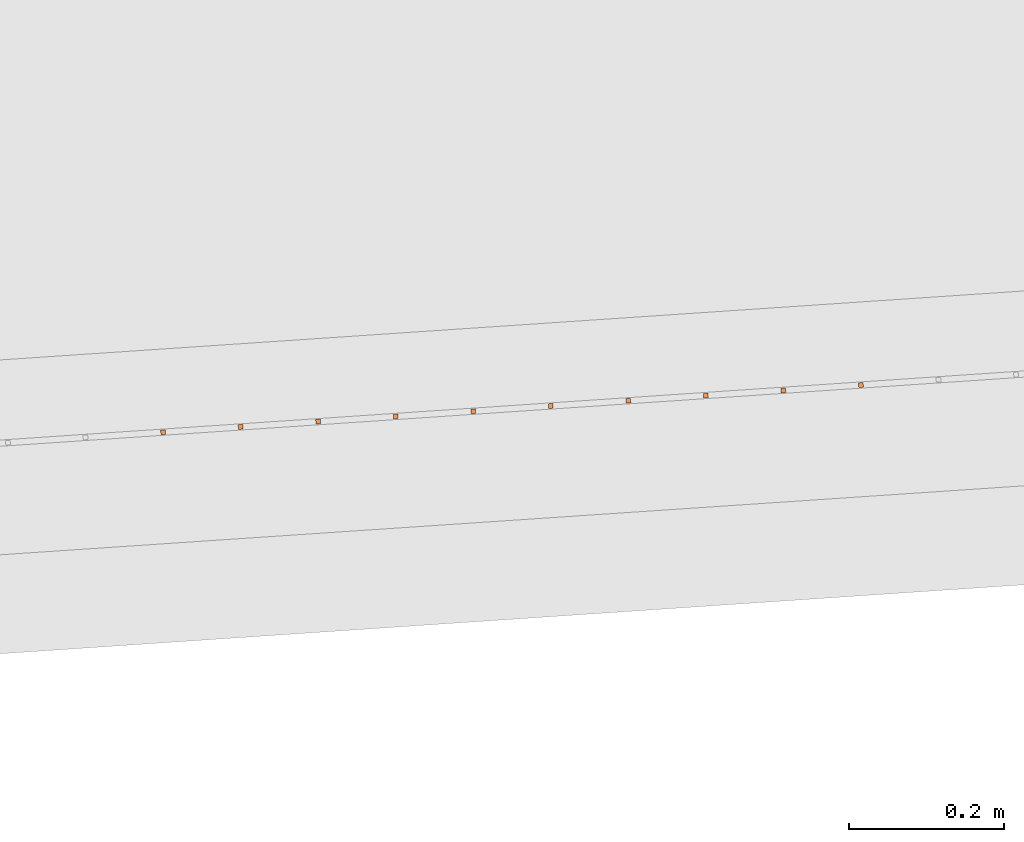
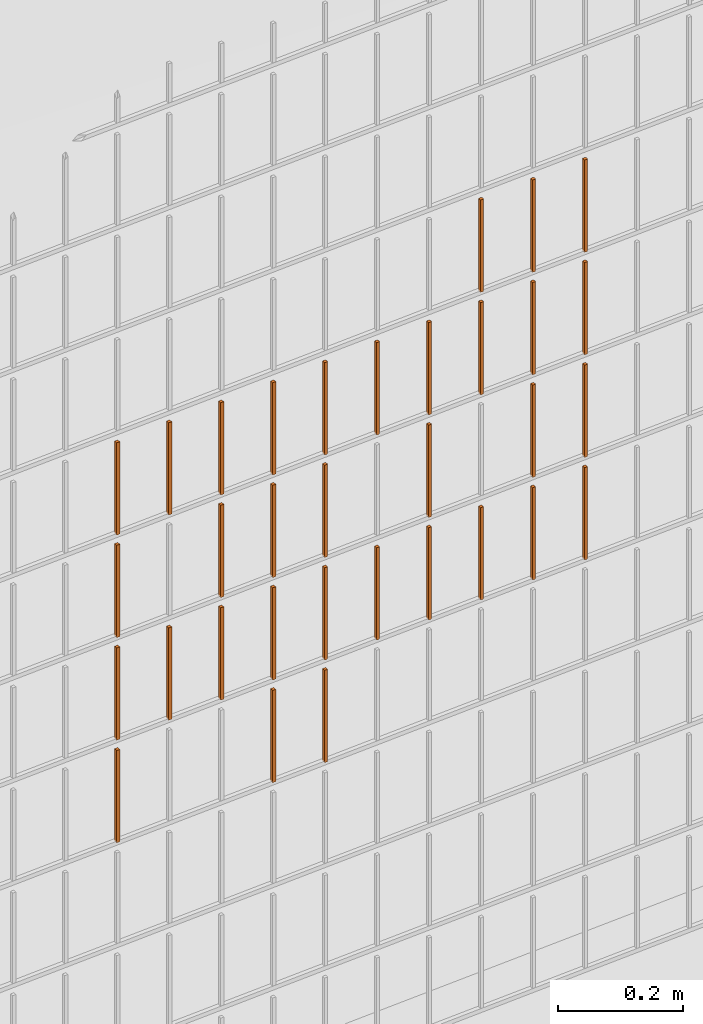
# One storey, part 311 of 1809: 33 proxies, 1 element without a shape of its own.
"""IFC2X3 building model written with IfcOpenShell, lengths in millimetres."""

from ifc_helpers import new_model, entity, si_unit, converted_unit, derived_unit, money_unit, direction, frame, origin_with_axes, place, context, subcontext, project, spatial, faceted_brep, source, transform, mapped, material, type_object, element, aggregate, save


model = new_model("IFC2X3")

# Units and contexts
model_context = context("Model", 3, precision=0.01, world=origin_with_axes(), true_north=direction((0.0, 1.0)))
body_context = subcontext(model_context, "Body", "Model", "MODEL_VIEW")
ifc_project = project(units=[si_unit("LENGTHUNIT", "METRE", prefix="MILLI"), si_unit("AREAUNIT", "SQUARE_METRE"), si_unit("VOLUMEUNIT", "CUBIC_METRE"), converted_unit("PLANEANGLEUNIT", "DEGREE", entity("IfcPlaneAngleMeasure", 0.0174532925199), si_unit("PLANEANGLEUNIT", "RADIAN"), dimensions=[0, 0, 0, 0, 0, 0, 0]), si_unit("SOLIDANGLEUNIT", "STERADIAN"), money_unit("EUR"), converted_unit("TIMEUNIT", "Year", entity("IfcTimeMeasure", 31556926.0), si_unit("TIMEUNIT", "SECOND"), dimensions=[0, 0, 1, 0, 0, 0, 0]), si_unit("MASSUNIT", "GRAM", prefix="KILO"), si_unit("THERMODYNAMICTEMPERATUREUNIT", "DEGREE_CELSIUS"), si_unit("LUMINOUSINTENSITYUNIT", "LUMEN"), si_unit("ENERGYUNIT", "JOULE", prefix="MEGA"), derived_unit("THERMALCONDUCTANCEUNIT", [(si_unit("POWERUNIT", "WATT"), 1), (si_unit("LENGTHUNIT", "METRE"), -1), (si_unit("THERMODYNAMICTEMPERATUREUNIT", "KELVIN"), -1)]), derived_unit("SPECIFICHEATCAPACITYUNIT", [(si_unit("ENERGYUNIT", "JOULE"), 1), (si_unit("MASSUNIT", "GRAM", prefix="KILO"), -1), (si_unit("THERMODYNAMICTEMPERATUREUNIT", "KELVIN"), -1)]), derived_unit("MASSDENSITYUNIT", [(si_unit("MASSUNIT", "GRAM", prefix="KILO"), 1), (si_unit("VOLUMEUNIT", "CUBIC_METRE"), -1)])], contexts=[model_context])

# Site, building, storey
site_placement = place(None, origin_with_axes())
site = spatial("IfcSite", under=ifc_project, at=site_placement, Name="Politse- ja Piirivalveameti ning Päästeameti ühishoone", CompositionType="ELEMENT")
building_placement = place(site_placement, origin_with_axes())
building = spatial("IfcBuilding", under=site, at=building_placement, Name="Politse- ja Piirivalveameti ning Päästeameti ühishoone", CompositionType="ELEMENT")
storey_placement = place(building_placement, origin_with_axes())
storey = spatial("IfcBuildingStorey", under=building, at=storey_placement, Name="Esimene korrus", CompositionType="ELEMENT", Elevation=0.0)

# Proxies
building_element_proxy_type_1 = type_object("IfcBuildingElementProxyType", Name="Railing Type", PredefinedType="NOTDEFINED")
proxy_1_placement = place(storey_placement, frame((89252.001212, -29183.4766571, 203.661247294), z_axis=(0.0, 0.0, 1.0), x_axis=(1.0, 0.0, 0.0)))
proxy_1 = element("IfcBuildingElementProxy", 1, at=proxy_1_placement, inside=storey, type_object=building_element_proxy_type_1, Name="PIIRDEAED")
ifc_material = material(Name="ET-03_Raud")
building_element_proxy_type_2 = type_object("IfcBuildingElementProxyType", Name="IfcBuildingElementProxy", PredefinedType="NOTDEFINED")
shared_shape_1 = source(origin_with_axes(), body_context, "Body", "Brep", [
    faceted_brep([(3.0, 3.0, -0.000752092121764), (-3.0, 3.0, -0.000752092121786), (-3.0, 3.0, 179.99926046), (3.0, 3.0, 179.99926046), (3.0, -3.0, 0.000752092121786), (-3.0, -3.0, 0.000752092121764), (-3.0, -3.0, 180.000764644), (3.0, -3.0, 180.000764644)], [[[0, 1, 2, 3]], [[0, 4, 5, 1]], [[1, 5, 6, 2]], [[3, 2, 6, 7]], [[4, 0, 3, 7]], [[5, 4, 7, 6]]]),
])
proxy_2_placement = place(proxy_1_placement, frame((-40534.3244226, -20035.7154053, 817.049381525), z_axis=(0.0, 0.0, 1.0), x_axis=(1.0, 0.0, 0.0)))
proxy_2 = element("IfcBuildingElementProxy", 2, at=proxy_2_placement, type_object=building_element_proxy_type_2, material=ifc_material, Name="BALUSTER - 001", context=body_context, shape_type="MappedRepresentation", body=[
    mapped(shared_shape_1, transform((0.0, 0.0, 0.0), x_axis=(-0.0673926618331, 0.997726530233, 0.0), y_axis=(-0.997726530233, -0.0673926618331, 0.0), z_axis=(0.0, 0.0, 1.0))),
])
shared_shape_2 = source(origin_with_axes(), body_context, "Body", "Brep", [
    faceted_brep([(3.0, 3.0, -0.000752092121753), (-3.0, 3.0, -0.000752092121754), (-3.0, 3.0, 179.99926046), (3.0, 3.0, 179.99926046), (3.0, -3.0, 0.000752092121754), (-3.0, -3.0, 0.000752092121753), (-3.0, -3.0, 180.000764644), (3.0, -3.0, 180.000764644)], [[[0, 1, 2, 3]], [[0, 4, 5, 1]], [[1, 5, 6, 2]], [[3, 2, 6, 7]], [[4, 0, 3, 7]], [[5, 4, 7, 6]]]),
])
proxy_3_placement = place(proxy_1_placement, frame((-41033.1876878, -20069.4117363, 816.924032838), z_axis=(0.0, 0.0, 1.0), x_axis=(1.0, 0.0, 0.0)))
proxy_3 = element("IfcBuildingElementProxy", 3, at=proxy_3_placement, type_object=building_element_proxy_type_2, material=ifc_material, Name="BALUSTER - 001", context=body_context, shape_type="MappedRepresentation", body=[
    mapped(shared_shape_2, transform((0.0, 0.0, 0.0), x_axis=(-0.0673926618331, 0.997726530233, 0.0), y_axis=(-0.997726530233, -0.0673926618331, 0.0), z_axis=(0.0, 0.0, 1.0))),
])
proxy_4_placement = place(proxy_1_placement, frame((-41033.1876878, -20069.4117363, 1216.92403284), z_axis=(0.0, 0.0, 1.0), x_axis=(1.0, 0.0, 0.0)))
proxy_4 = element("IfcBuildingElementProxy", 4, at=proxy_4_placement, type_object=building_element_proxy_type_2, material=ifc_material, Name="BALUSTER - 001", context=body_context, shape_type="MappedRepresentation", body=[
    mapped(shared_shape_2, transform((0.0, 0.0, 0.0), x_axis=(-0.0673926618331, 0.997726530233, 0.0), y_axis=(-0.997726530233, -0.0673926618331, 0.0), z_axis=(0.0, 0.0, 1.0))),
])
shared_shape_3 = source(origin_with_axes(), body_context, "Body", "Brep", [
    faceted_brep([(3.0, 3.0, -0.000752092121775), (-3.0, 3.0, -0.000752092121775), (-3.0, 3.0, 179.99926046), (3.0, 3.0, 179.99926046), (3.0, -3.0, 0.000752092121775), (-3.0, -3.0, 0.000752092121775), (-3.0, -3.0, 180.000764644), (3.0, -3.0, 180.000764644)], [[[0, 1, 2, 3]], [[0, 4, 5, 1]], [[1, 5, 6, 2]], [[3, 2, 6, 7]], [[4, 0, 3, 7]], [[5, 4, 7, 6]]]),
])
proxy_5_placement = place(proxy_1_placement, frame((-40434.5517696, -20028.9761392, 817.074451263), z_axis=(0.0, 0.0, 1.0), x_axis=(1.0, 0.0, 0.0)))
proxy_5 = element("IfcBuildingElementProxy", 5, at=proxy_5_placement, type_object=building_element_proxy_type_2, material=ifc_material, Name="BALUSTER - 001", context=body_context, shape_type="MappedRepresentation", body=[
    mapped(shared_shape_3, transform((0.0, 0.0, 0.0), x_axis=(-0.0673926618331, 0.997726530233, 0.0), y_axis=(-0.997726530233, -0.0673926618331, 0.0), z_axis=(0.0, 0.0, 1.0))),
])
shared_shape_4 = source(origin_with_axes(), body_context, "Body", "Brep", [
    faceted_brep([(3.0, 3.0, -0.000752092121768), (-3.0, 3.0, -0.000752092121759), (-3.00000000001, 2.99999999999, 179.99926046), (2.99999999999, 2.99999999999, 179.99926046), (3.0, -3.0, 0.000752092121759), (-3.0, -3.0, 0.000752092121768), (-3.00000000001, -3.00000000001, 180.000764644), (2.99999999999, -3.00000000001, 180.000764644)], [[[0, 1, 2, 3]], [[0, 4, 5, 1]], [[1, 5, 6, 2]], [[3, 2, 6, 7]], [[4, 0, 3, 7]], [[5, 4, 7, 6]]]),
])
proxy_6_placement = place(proxy_1_placement, frame((-40235.0064636, -20015.4976068, 1017.12459074), z_axis=(0.0, 0.0, 1.0), x_axis=(1.0, 0.0, 0.0)))
proxy_6 = element("IfcBuildingElementProxy", 6, at=proxy_6_placement, type_object=building_element_proxy_type_2, material=ifc_material, Name="BALUSTER - 001", context=body_context, shape_type="MappedRepresentation", body=[
    mapped(shared_shape_4, transform((0.0, 0.0, 0.0), x_axis=(-0.0673926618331, 0.997726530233, 0.0), y_axis=(-0.997726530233, -0.0673926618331, 0.0), z_axis=(0.0, 0.0, 1.0))),
])
shared_shape_5 = source(origin_with_axes(), body_context, "Body", "Brep", [
    faceted_brep([(3.0, 3.0, -0.000752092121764), (-3.0, 3.0, -0.000752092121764), (-3.0, 3.0, 179.99926046), (3.0, 3.0, 179.99926046), (3.0, -3.0, 0.000752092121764), (-3.0, -3.0, 0.000752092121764), (-3.0, -3.0, 180.000764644), (3.0, -3.0, 180.000764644)], [[[0, 1, 2, 3]], [[0, 4, 5, 1]], [[1, 5, 6, 2]], [[3, 2, 6, 7]], [[4, 0, 3, 7]], [[5, 4, 7, 6]]]),
])
proxy_7_placement = place(proxy_1_placement, frame((-40634.0970757, -20042.4546715, 817.024311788), z_axis=(0.0, 0.0, 1.0), x_axis=(1.0, 0.0, 0.0)))
proxy_7 = element("IfcBuildingElementProxy", 7, at=proxy_7_placement, type_object=building_element_proxy_type_2, material=ifc_material, Name="BALUSTER - 001", context=body_context, shape_type="MappedRepresentation", body=[
    mapped(shared_shape_5, transform((0.0, 0.0, 0.0), x_axis=(-0.0673926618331, 0.997726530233, 0.0), y_axis=(-0.997726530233, -0.0673926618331, 0.0), z_axis=(0.0, 0.0, 1.0))),
])
proxy_8_placement = place(proxy_1_placement, frame((-40534.3244226, -20035.7154053, 1217.04938153), z_axis=(0.0, 0.0, 1.0), x_axis=(1.0, 0.0, 0.0)))
proxy_8 = element("IfcBuildingElementProxy", 8, at=proxy_8_placement, type_object=building_element_proxy_type_2, material=ifc_material, Name="BALUSTER - 001", context=body_context, shape_type="MappedRepresentation", body=[
    mapped(shared_shape_5, transform((0.0, 0.0, 0.0), x_axis=(-0.0673926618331, 0.997726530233, 0.0), y_axis=(-0.997726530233, -0.0673926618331, 0.0), z_axis=(0.0, 0.0, 1.0))),
])
shared_shape_6 = source(origin_with_axes(), body_context, "Body", "Brep", [
    faceted_brep([(3.0, 3.0, -0.000752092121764), (-3.0, 3.0, -0.000752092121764), (-3.0, 3.0, 179.99926046), (3.0, 3.0, 179.99926046), (3.0, -3.0, 0.000752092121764), (-3.0, -3.0, 0.000752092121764), (-3.0, -3.0, 180.000764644), (3.0, -3.0, 180.000764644)], [[[0, 1, 2, 3]], [[0, 4, 5, 1]], [[1, 5, 6, 2]], [[3, 2, 6, 7]], [[4, 0, 3, 7]], [[5, 4, 7, 6]]]),
])
proxy_9_placement = place(proxy_1_placement, frame((-40833.6423817, -20055.9332039, 1216.97417231), z_axis=(0.0, 0.0, 1.0), x_axis=(1.0, 0.0, 0.0)))
proxy_9 = element("IfcBuildingElementProxy", 9, at=proxy_9_placement, type_object=building_element_proxy_type_2, material=ifc_material, Name="BALUSTER - 001", context=body_context, shape_type="MappedRepresentation", body=[
    mapped(shared_shape_6, transform((0.0, 0.0, 0.0), x_axis=(-0.0673926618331, 0.997726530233, 0.0), y_axis=(-0.997726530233, -0.0673926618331, 0.0), z_axis=(0.0, 0.0, 1.0))),
])
shared_shape_7 = source(origin_with_axes(), body_context, "Body", "Brep", [
    faceted_brep([(3.0, 3.0, -0.000752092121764), (-3.0, 3.0, -0.000752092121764), (-3.0, 3.0, 179.99926046), (3.0, 3.0, 179.99926046), (3.0, -3.0, 0.000752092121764), (-3.0, -3.0, 0.000752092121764), (-3.0, -3.0, 180.000764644), (3.0, -3.0, 180.000764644)], [[[0, 1, 2, 3]], [[0, 4, 5, 1]], [[1, 5, 6, 2]], [[3, 2, 6, 7]], [[4, 0, 3, 7]], [[5, 4, 7, 6]]]),
])
proxy_10_placement = place(proxy_1_placement, frame((-40235.0064636, -20015.4976068, 1417.12459074), z_axis=(0.0, 0.0, 1.0), x_axis=(1.0, 0.0, 0.0)))
proxy_10 = element("IfcBuildingElementProxy", 10, at=proxy_10_placement, type_object=building_element_proxy_type_2, material=ifc_material, Name="BALUSTER - 001", context=body_context, shape_type="MappedRepresentation", body=[
    mapped(shared_shape_7, transform((0.0, 0.0, 0.0), x_axis=(-0.0673926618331, 0.997726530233, 0.0), y_axis=(-0.997726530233, -0.0673926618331, 0.0), z_axis=(0.0, 0.0, 1.0))),
])
shared_shape_8 = source(origin_with_axes(), body_context, "Body", "Brep", [
    faceted_brep([(3.0, 3.0, -0.000752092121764), (-3.0, 3.0, -0.000752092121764), (-3.0, 3.0, 179.99926046), (3.0, 3.0, 179.99926046), (3.0, -3.0, 0.000752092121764), (-3.0, -3.0, 0.000752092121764), (-3.0, -3.0, 180.000764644), (3.0, -3.0, 180.000764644)], [[[0, 1, 2, 3]], [[0, 4, 5, 1]], [[1, 5, 6, 2]], [[3, 2, 6, 7]], [[4, 0, 3, 7]], [[5, 4, 7, 6]]]),
])
proxy_11_placement = place(proxy_1_placement, frame((-40235.0064636, -20015.4976068, 817.124590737), z_axis=(0.0, 0.0, 1.0), x_axis=(1.0, 0.0, 0.0)))
proxy_11 = element("IfcBuildingElementProxy", 11, at=proxy_11_placement, type_object=building_element_proxy_type_2, material=ifc_material, Name="BALUSTER - 001", context=body_context, shape_type="MappedRepresentation", body=[
    mapped(shared_shape_8, transform((0.0, 0.0, 0.0), x_axis=(-0.0673926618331, 0.997726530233, 0.0), y_axis=(-0.997726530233, -0.0673926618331, 0.0), z_axis=(0.0, 0.0, 1.0))),
])
shared_shape_9 = source(origin_with_axes(), body_context, "Body", "Brep", [
    faceted_brep([(3.0, 3.0, -0.000752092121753), (-3.0, 3.0, -0.000752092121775), (-3.0, 3.0, 179.99926046), (3.0, 3.0, 179.99926046), (3.0, -3.0, 0.000752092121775), (-3.0, -3.0, 0.000752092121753), (-3.0, -3.0, 180.000764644), (3.0, -3.0, 180.000764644)], [[[0, 1, 2, 3]], [[0, 4, 5, 1]], [[1, 5, 6, 2]], [[3, 2, 6, 7]], [[4, 0, 3, 7]], [[5, 4, 7, 6]]]),
])
proxy_12_placement = place(proxy_1_placement, frame((-41132.9603408, -20076.1510024, 816.898963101), z_axis=(0.0, 0.0, 1.0), x_axis=(1.0, 0.0, 0.0)))
proxy_12 = element("IfcBuildingElementProxy", 12, at=proxy_12_placement, type_object=building_element_proxy_type_2, material=ifc_material, Name="BALUSTER - 001", context=body_context, shape_type="MappedRepresentation", body=[
    mapped(shared_shape_9, transform((0.0, 0.0, 0.0), x_axis=(-0.0673926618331, 0.997726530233, 0.0), y_axis=(-0.997726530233, -0.0673926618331, 0.0), z_axis=(0.0, 0.0, 1.0))),
])
shared_shape_10 = source(origin_with_axes(), body_context, "Body", "Brep", [
    faceted_brep([(3.0, 3.0, -0.000752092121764), (-3.0, 3.0, -0.000752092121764), (-3.0, 3.0, 179.99926046), (3.0, 3.0, 179.99926046), (3.0, -3.0, 0.000752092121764), (-3.0, -3.0, 0.000752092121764), (-3.0, -3.0, 180.000764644), (3.0, -3.0, 180.000764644)], [[[0, 1, 2, 3]], [[0, 4, 5, 1]], [[1, 5, 6, 2]], [[3, 2, 6, 7]], [[4, 0, 3, 7]], [[5, 4, 7, 6]]]),
])
proxy_13_placement = place(proxy_1_placement, frame((-40235.0064636, -20015.4976068, 1217.12459074), z_axis=(0.0, 0.0, 1.0), x_axis=(1.0, 0.0, 0.0)))
proxy_13 = element("IfcBuildingElementProxy", 13, at=proxy_13_placement, type_object=building_element_proxy_type_2, material=ifc_material, Name="BALUSTER - 001", context=body_context, shape_type="MappedRepresentation", body=[
    mapped(shared_shape_10, transform((0.0, 0.0, 0.0), x_axis=(-0.0673926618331, 0.997726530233, 0.0), y_axis=(-0.997726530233, -0.0673926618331, 0.0), z_axis=(0.0, 0.0, 1.0))),
])
proxy_14_placement = place(proxy_1_placement, frame((-40933.4150347, -20062.6724701, 1216.94910258), z_axis=(0.0, 0.0, 1.0), x_axis=(1.0, 0.0, 0.0)))
proxy_14 = element("IfcBuildingElementProxy", 14, at=proxy_14_placement, type_object=building_element_proxy_type_2, material=ifc_material, Name="BALUSTER - 001", context=body_context, shape_type="MappedRepresentation", body=[
    mapped(shared_shape_10, transform((0.0, 0.0, 0.0), x_axis=(-0.0673926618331, 0.997726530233, 0.0), y_axis=(-0.997726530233, -0.0673926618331, 0.0), z_axis=(0.0, 0.0, 1.0))),
])
shared_shape_11 = source(origin_with_axes(), body_context, "Body", "Brep", [
    faceted_brep([(3.0, 3.0, -0.000752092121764), (-3.0, 3.0, -0.000752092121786), (-3.0, 3.0, 179.99926046), (3.0, 3.0, 179.99926046), (3.0, -3.0, 0.000752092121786), (-3.0, -3.0, 0.000752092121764), (-3.0, -3.0, 180.000764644), (3.0, -3.0, 180.000764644)], [[[0, 1, 2, 3]], [[0, 4, 5, 1]], [[1, 5, 6, 2]], [[3, 2, 6, 7]], [[4, 0, 3, 7]], [[5, 4, 7, 6]]]),
])
proxy_15_placement = place(proxy_1_placement, frame((-40434.5517696, -20028.9761392, 1217.07445126), z_axis=(0.0, 0.0, 1.0), x_axis=(1.0, 0.0, 0.0)))
proxy_15 = element("IfcBuildingElementProxy", 15, at=proxy_15_placement, type_object=building_element_proxy_type_2, material=ifc_material, Name="BALUSTER - 001", context=body_context, shape_type="MappedRepresentation", body=[
    mapped(shared_shape_11, transform((0.0, 0.0, 0.0), x_axis=(-0.0673926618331, 0.997726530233, 0.0), y_axis=(-0.997726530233, -0.0673926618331, 0.0), z_axis=(0.0, 0.0, 1.0))),
])
shared_shape_12 = source(origin_with_axes(), body_context, "Body", "Brep", [
    faceted_brep([(3.0, 3.0, -0.000752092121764), (-3.0, 3.0, -0.000752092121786), (-3.0, 3.0, 179.99926046), (3.0, 3.0, 179.99926046), (3.0, -3.0, 0.000752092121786), (-3.0, -3.0, 0.000752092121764), (-3.0, -3.0, 180.000764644), (3.0, -3.0, 180.000764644)], [[[0, 1, 2, 3]], [[0, 4, 5, 1]], [[1, 5, 6, 2]], [[3, 2, 6, 7]], [[4, 0, 3, 7]], [[5, 4, 7, 6]]]),
])
proxy_16_placement = place(proxy_1_placement, frame((-40434.5517696, -20028.9761392, 1417.07445126), z_axis=(0.0, 0.0, 1.0), x_axis=(1.0, 0.0, 0.0)))
proxy_16 = element("IfcBuildingElementProxy", 16, at=proxy_16_placement, type_object=building_element_proxy_type_2, material=ifc_material, Name="BALUSTER - 001", context=body_context, shape_type="MappedRepresentation", body=[
    mapped(shared_shape_12, transform((0.0, 0.0, 0.0), x_axis=(-0.0673926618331, 0.997726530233, 0.0), y_axis=(-0.997726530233, -0.0673926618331, 0.0), z_axis=(0.0, 0.0, 1.0))),
])
shared_shape_13 = source(origin_with_axes(), body_context, "Body", "Brep", [
    faceted_brep([(3.0, 3.0, -0.000752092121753), (-3.0, 3.0, -0.000752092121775), (-3.0, 3.0, 179.99926046), (3.0, 3.0, 179.99926046), (3.0, -3.0, 0.000752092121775), (-3.0, -3.0, 0.000752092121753), (-3.0, -3.0, 180.000764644), (3.0, -3.0, 180.000764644)], [[[0, 1, 2, 3]], [[0, 4, 5, 1]], [[1, 5, 6, 2]], [[3, 2, 6, 7]], [[4, 0, 3, 7]], [[5, 4, 7, 6]]]),
])
proxy_17_placement = place(proxy_1_placement, frame((-41132.9603408, -20076.1510024, 1216.8989631), z_axis=(0.0, 0.0, 1.0), x_axis=(1.0, 0.0, 0.0)))
proxy_17 = element("IfcBuildingElementProxy", 17, at=proxy_17_placement, type_object=building_element_proxy_type_2, material=ifc_material, Name="BALUSTER - 001", context=body_context, shape_type="MappedRepresentation", body=[
    mapped(shared_shape_13, transform((0.0, 0.0, 0.0), x_axis=(-0.0673926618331, 0.997726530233, 0.0), y_axis=(-0.997726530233, -0.0673926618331, 0.0), z_axis=(0.0, 0.0, 1.0))),
])
shared_shape_14 = source(origin_with_axes(), body_context, "Body", "Brep", [
    faceted_brep([(3.0, 3.0, -0.000752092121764), (-3.0, 3.0, -0.000752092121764), (-3.0, 3.0, 179.99926046), (3.0, 3.0, 179.99926046), (3.0, -3.0, 0.000752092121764), (-3.0, -3.0, 0.000752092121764), (-3.0, -3.0, 180.000764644), (3.0, -3.0, 180.000764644)], [[[0, 1, 2, 3]], [[0, 4, 5, 1]], [[1, 5, 6, 2]], [[3, 2, 6, 7]], [[4, 0, 3, 7]], [[5, 4, 7, 6]]]),
])
proxy_18_placement = place(proxy_1_placement, frame((-40733.8697287, -20049.1939377, 616.99924205), z_axis=(0.0, 0.0, 1.0), x_axis=(1.0, 0.0, 0.0)))
proxy_18 = element("IfcBuildingElementProxy", 18, at=proxy_18_placement, type_object=building_element_proxy_type_2, material=ifc_material, Name="BALUSTER - 001", context=body_context, shape_type="MappedRepresentation", body=[
    mapped(shared_shape_14, transform((0.0, 0.0, 0.0), x_axis=(-0.0673926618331, 0.997726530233, 0.0), y_axis=(-0.997726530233, -0.0673926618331, 0.0), z_axis=(0.0, 0.0, 1.0))),
])
shared_shape_15 = source(origin_with_axes(), body_context, "Body", "Brep", [
    faceted_brep([(3.0, 3.0, -0.000752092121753), (-3.0, 3.0, -0.000752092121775), (-3.0, 3.0, 179.99926046), (3.0, 3.0, 179.99926046), (3.0, -3.0, 0.000752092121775), (-3.0, -3.0, 0.000752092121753), (-3.0, -3.0, 180.000764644), (3.0, -3.0, 180.000764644)], [[[0, 1, 2, 3]], [[0, 4, 5, 1]], [[1, 5, 6, 2]], [[3, 2, 6, 7]], [[4, 0, 3, 7]], [[5, 4, 7, 6]]]),
])
proxy_19_placement = place(proxy_1_placement, frame((-40933.4150347, -20062.6724701, 816.949102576), z_axis=(0.0, 0.0, 1.0), x_axis=(1.0, 0.0, 0.0)))
proxy_19 = element("IfcBuildingElementProxy", 19, at=proxy_19_placement, type_object=building_element_proxy_type_2, material=ifc_material, Name="BALUSTER - 001", context=body_context, shape_type="MappedRepresentation", body=[
    mapped(shared_shape_15, transform((0.0, 0.0, 0.0), x_axis=(-0.0673926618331, 0.997726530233, 0.0), y_axis=(-0.997726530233, -0.0673926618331, 0.0), z_axis=(0.0, 0.0, 1.0))),
])
shared_shape_16 = source(origin_with_axes(), body_context, "Body", "Brep", [
    faceted_brep([(3.0, 3.0, -0.000752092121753), (-3.0, 3.0, -0.000752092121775), (-3.0, 3.0, 179.99926046), (3.0, 3.0, 179.99926046), (3.0, -3.0, 0.000752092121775), (-3.0, -3.0, 0.000752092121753), (-3.0, -3.0, 180.000764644), (3.0, -3.0, 180.000764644)], [[[0, 1, 2, 3]], [[0, 4, 5, 1]], [[1, 5, 6, 2]], [[3, 2, 6, 7]], [[4, 0, 3, 7]], [[5, 4, 7, 6]]]),
])
proxy_20_placement = place(proxy_1_placement, frame((-40334.7791166, -20022.236873, 817.099521), z_axis=(0.0, 0.0, 1.0), x_axis=(1.0, 0.0, 0.0)))
proxy_20 = element("IfcBuildingElementProxy", 20, at=proxy_20_placement, type_object=building_element_proxy_type_2, material=ifc_material, Name="BALUSTER - 001", context=body_context, shape_type="MappedRepresentation", body=[
    mapped(shared_shape_16, transform((0.0, 0.0, 0.0), x_axis=(-0.0673926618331, 0.997726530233, 0.0), y_axis=(-0.997726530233, -0.0673926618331, 0.0), z_axis=(0.0, 0.0, 1.0))),
])
proxy_21_placement = place(proxy_1_placement, frame((-40634.0970757, -20042.4546715, 1217.02431179), z_axis=(0.0, 0.0, 1.0), x_axis=(1.0, 0.0, 0.0)))
proxy_21 = element("IfcBuildingElementProxy", 21, at=proxy_21_placement, type_object=building_element_proxy_type_2, material=ifc_material, Name="BALUSTER - 001", context=body_context, shape_type="MappedRepresentation", body=[
    mapped(shared_shape_16, transform((0.0, 0.0, 0.0), x_axis=(-0.0673926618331, 0.997726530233, 0.0), y_axis=(-0.997726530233, -0.0673926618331, 0.0), z_axis=(0.0, 0.0, 1.0))),
])
shared_shape_17 = source(origin_with_axes(), body_context, "Body", "Brep", [
    faceted_brep([(3.0, 3.0, -0.000752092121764), (-3.0, 3.0, -0.000752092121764), (-3.0, 3.0, 179.99926046), (3.0, 3.0, 179.99926046), (3.0, -3.0, 0.000752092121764), (-3.0, -3.0, 0.000752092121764), (-3.0, -3.0, 180.000764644), (3.0, -3.0, 180.000764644)], [[[0, 1, 2, 3]], [[0, 4, 5, 1]], [[1, 5, 6, 2]], [[3, 2, 6, 7]], [[4, 0, 3, 7]], [[5, 4, 7, 6]]]),
])
proxy_22_placement = place(proxy_1_placement, frame((-40733.8697287, -20049.1939377, 816.99924205), z_axis=(0.0, 0.0, 1.0), x_axis=(1.0, 0.0, 0.0)))
proxy_22 = element("IfcBuildingElementProxy", 22, at=proxy_22_placement, type_object=building_element_proxy_type_2, material=ifc_material, Name="BALUSTER - 001", context=body_context, shape_type="MappedRepresentation", body=[
    mapped(shared_shape_17, transform((0.0, 0.0, 0.0), x_axis=(-0.0673926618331, 0.997726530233, 0.0), y_axis=(-0.997726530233, -0.0673926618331, 0.0), z_axis=(0.0, 0.0, 1.0))),
])
shared_shape_18 = source(origin_with_axes(), body_context, "Body", "Brep", [
    faceted_brep([(3.0, 3.0, -0.000752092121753), (-3.0, 3.0, -0.000752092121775), (-3.0, 3.0, 179.99926046), (3.0, 3.0, 179.99926046), (3.0, -3.0, 0.000752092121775), (-3.0, -3.0, 0.000752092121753), (-3.0, -3.0, 180.000764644), (3.0, -3.0, 180.000764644)], [[[0, 1, 2, 3]], [[0, 4, 5, 1]], [[1, 5, 6, 2]], [[3, 2, 6, 7]], [[4, 0, 3, 7]], [[5, 4, 7, 6]]]),
])
proxy_23_placement = place(proxy_1_placement, frame((-41132.9603408, -20076.1510024, 616.898963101), z_axis=(0.0, 0.0, 1.0), x_axis=(1.0, 0.0, 0.0)))
proxy_23 = element("IfcBuildingElementProxy", 23, at=proxy_23_placement, type_object=building_element_proxy_type_2, material=ifc_material, Name="BALUSTER - 001", context=body_context, shape_type="MappedRepresentation", body=[
    mapped(shared_shape_18, transform((0.0, 0.0, 0.0), x_axis=(-0.0673926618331, 0.997726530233, 0.0), y_axis=(-0.997726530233, -0.0673926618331, 0.0), z_axis=(0.0, 0.0, 1.0))),
])
shared_shape_19 = source(origin_with_axes(), body_context, "Body", "Brep", [
    faceted_brep([(3.0, 3.0, -0.000752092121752), (-3.0, 3.0, -0.000752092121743), (-3.00000000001, 2.99999999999, 179.99926046), (2.99999999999, 2.99999999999, 179.99926046), (3.0, -3.0, 0.000752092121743), (-3.0, -3.0, 0.000752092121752), (-3.00000000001, -3.00000000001, 180.000764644), (2.99999999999, -3.00000000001, 180.000764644)], [[[0, 1, 2, 3]], [[0, 4, 5, 1]], [[1, 5, 6, 2]], [[3, 2, 6, 7]], [[4, 0, 3, 7]], [[5, 4, 7, 6]]]),
])
proxy_24_placement = place(proxy_1_placement, frame((-40733.8697287, -20049.1939377, 1016.99924205), z_axis=(0.0, 0.0, 1.0), x_axis=(1.0, 0.0, 0.0)))
proxy_24 = element("IfcBuildingElementProxy", 24, at=proxy_24_placement, type_object=building_element_proxy_type_2, material=ifc_material, Name="BALUSTER - 001", context=body_context, shape_type="MappedRepresentation", body=[
    mapped(shared_shape_19, transform((0.0, 0.0, 0.0), x_axis=(-0.0673926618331, 0.997726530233, 0.0), y_axis=(-0.997726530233, -0.0673926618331, 0.0), z_axis=(0.0, 0.0, 1.0))),
])
shared_shape_20 = source(origin_with_axes(), body_context, "Body", "Brep", [
    faceted_brep([(3.0, 3.0, -0.000752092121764), (-3.0, 3.0, -0.000752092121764), (-3.0, 3.0, 179.99926046), (3.0, 3.0, 179.99926046), (3.0, -3.0, 0.000752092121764), (-3.0, -3.0, 0.000752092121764), (-3.0, -3.0, 180.000764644), (3.0, -3.0, 180.000764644)], [[[0, 1, 2, 3]], [[0, 4, 5, 1]], [[1, 5, 6, 2]], [[3, 2, 6, 7]], [[4, 0, 3, 7]], [[5, 4, 7, 6]]]),
])
proxy_25_placement = place(proxy_1_placement, frame((-40833.6423817, -20055.9332039, 816.974172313), z_axis=(0.0, 0.0, 1.0), x_axis=(1.0, 0.0, 0.0)))
proxy_25 = element("IfcBuildingElementProxy", 25, at=proxy_25_placement, type_object=building_element_proxy_type_2, material=ifc_material, Name="BALUSTER - 001", context=body_context, shape_type="MappedRepresentation", body=[
    mapped(shared_shape_20, transform((0.0, 0.0, 0.0), x_axis=(-0.0673926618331, 0.997726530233, 0.0), y_axis=(-0.997726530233, -0.0673926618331, 0.0), z_axis=(0.0, 0.0, 1.0))),
])
proxy_26_placement = place(proxy_1_placement, frame((-40733.8697287, -20049.1939377, 1216.99924205), z_axis=(0.0, 0.0, 1.0), x_axis=(1.0, 0.0, 0.0)))
proxy_26 = element("IfcBuildingElementProxy", 26, at=proxy_26_placement, type_object=building_element_proxy_type_2, material=ifc_material, Name="BALUSTER - 001", context=body_context, shape_type="MappedRepresentation", body=[
    mapped(shared_shape_20, transform((0.0, 0.0, 0.0), x_axis=(-0.0673926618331, 0.997726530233, 0.0), y_axis=(-0.997726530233, -0.0673926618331, 0.0), z_axis=(0.0, 0.0, 1.0))),
])
shared_shape_21 = source(origin_with_axes(), body_context, "Body", "Brep", [
    faceted_brep([(3.0, 3.0, -0.000752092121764), (-3.0, 3.0, -0.000752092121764), (-3.0, 3.0, 179.99926046), (3.0, 3.0, 179.99926046), (3.0, -3.0, 0.000752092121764), (-3.0, -3.0, 0.000752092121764), (-3.0, -3.0, 180.000764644), (3.0, -3.0, 180.000764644)], [[[0, 1, 2, 3]], [[0, 4, 5, 1]], [[1, 5, 6, 2]], [[3, 2, 6, 7]], [[4, 0, 3, 7]], [[5, 4, 7, 6]]]),
])
proxy_27_placement = place(proxy_1_placement, frame((-40833.6423817, -20055.9332039, 616.974172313), z_axis=(0.0, 0.0, 1.0), x_axis=(1.0, 0.0, 0.0)))
proxy_27 = element("IfcBuildingElementProxy", 27, at=proxy_27_placement, type_object=building_element_proxy_type_2, material=ifc_material, Name="BALUSTER - 001", context=body_context, shape_type="MappedRepresentation", body=[
    mapped(shared_shape_21, transform((0.0, 0.0, 0.0), x_axis=(-0.0673926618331, 0.997726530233, 0.0), y_axis=(-0.997726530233, -0.0673926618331, 0.0), z_axis=(0.0, 0.0, 1.0))),
])
proxy_28_placement = place(proxy_1_placement, frame((-40334.7791166, -20022.236873, 1217.099521), z_axis=(0.0, 0.0, 1.0), x_axis=(1.0, 0.0, 0.0)))
proxy_28 = element("IfcBuildingElementProxy", 28, at=proxy_28_placement, type_object=building_element_proxy_type_2, material=ifc_material, Name="BALUSTER - 001", context=body_context, shape_type="MappedRepresentation", body=[
    mapped(shared_shape_21, transform((0.0, 0.0, 0.0), x_axis=(-0.0673926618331, 0.997726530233, 0.0), y_axis=(-0.997726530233, -0.0673926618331, 0.0), z_axis=(0.0, 0.0, 1.0))),
])
shared_shape_22 = source(origin_with_axes(), body_context, "Body", "Brep", [
    faceted_brep([(3.0, 3.0, -0.000752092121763), (-3.0, 3.0, -0.000752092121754), (-3.00000000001, 2.99999999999, 179.99926046), (2.99999999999, 2.99999999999, 179.99926046), (3.0, -3.0, 0.000752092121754), (-3.0, -3.0, 0.000752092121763), (-3.00000000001, -3.00000000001, 180.000764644), (2.99999999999, -3.00000000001, 180.000764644)], [[[0, 1, 2, 3]], [[0, 4, 5, 1]], [[1, 5, 6, 2]], [[3, 2, 6, 7]], [[4, 0, 3, 7]], [[5, 4, 7, 6]]]),
])
proxy_29_placement = place(proxy_1_placement, frame((-40833.6423817, -20055.9332039, 1016.97417231), z_axis=(0.0, 0.0, 1.0), x_axis=(1.0, 0.0, 0.0)))
proxy_29 = element("IfcBuildingElementProxy", 29, at=proxy_29_placement, type_object=building_element_proxy_type_2, material=ifc_material, Name="BALUSTER - 001", context=body_context, shape_type="MappedRepresentation", body=[
    mapped(shared_shape_22, transform((0.0, 0.0, 0.0), x_axis=(-0.0673926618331, 0.997726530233, 0.0), y_axis=(-0.997726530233, -0.0673926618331, 0.0), z_axis=(0.0, 0.0, 1.0))),
])
shared_shape_23 = source(origin_with_axes(), body_context, "Body", "Brep", [
    faceted_brep([(3.0, 3.0, -0.000752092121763), (-3.0, 3.0, -0.000752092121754), (-3.00000000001, 2.99999999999, 179.99926046), (2.99999999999, 2.99999999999, 179.99926046), (3.0, -3.0, 0.000752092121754), (-3.0, -3.0, 0.000752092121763), (-3.00000000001, -3.00000000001, 180.000764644), (2.99999999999, -3.00000000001, 180.000764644)], [[[0, 1, 2, 3]], [[0, 4, 5, 1]], [[1, 5, 6, 2]], [[3, 2, 6, 7]], [[4, 0, 3, 7]], [[5, 4, 7, 6]]]),
])
proxy_30_placement = place(proxy_1_placement, frame((-40334.7791166, -20022.236873, 1017.099521), z_axis=(0.0, 0.0, 1.0), x_axis=(1.0, 0.0, 0.0)))
proxy_30 = element("IfcBuildingElementProxy", 30, at=proxy_30_placement, type_object=building_element_proxy_type_2, material=ifc_material, Name="BALUSTER - 001", context=body_context, shape_type="MappedRepresentation", body=[
    mapped(shared_shape_23, transform((0.0, 0.0, 0.0), x_axis=(-0.0673926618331, 0.997726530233, 0.0), y_axis=(-0.997726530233, -0.0673926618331, 0.0), z_axis=(0.0, 0.0, 1.0))),
])
proxy_31_placement = place(proxy_1_placement, frame((-40933.4150347, -20062.6724701, 1016.94910258), z_axis=(0.0, 0.0, 1.0), x_axis=(1.0, 0.0, 0.0)))
proxy_31 = element("IfcBuildingElementProxy", 31, at=proxy_31_placement, type_object=building_element_proxy_type_2, material=ifc_material, Name="BALUSTER - 001", context=body_context, shape_type="MappedRepresentation", body=[
    mapped(shared_shape_23, transform((0.0, 0.0, 0.0), x_axis=(-0.0673926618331, 0.997726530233, 0.0), y_axis=(-0.997726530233, -0.0673926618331, 0.0), z_axis=(0.0, 0.0, 1.0))),
])
shared_shape_24 = source(origin_with_axes(), body_context, "Body", "Brep", [
    faceted_brep([(3.0, 3.0, -0.000752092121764), (-3.0, 3.0, -0.000752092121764), (-3.0, 3.0, 179.99926046), (3.0, 3.0, 179.99926046), (3.0, -3.0, 0.000752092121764), (-3.0, -3.0, 0.000752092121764), (-3.0, -3.0, 180.000764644), (3.0, -3.0, 180.000764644)], [[[0, 1, 2, 3]], [[0, 4, 5, 1]], [[1, 5, 6, 2]], [[3, 2, 6, 7]], [[4, 0, 3, 7]], [[5, 4, 7, 6]]]),
])
proxy_32_placement = place(proxy_1_placement, frame((-40334.7791166, -20022.236873, 1417.099521), z_axis=(0.0, 0.0, 1.0), x_axis=(1.0, 0.0, 0.0)))
proxy_32 = element("IfcBuildingElementProxy", 32, at=proxy_32_placement, type_object=building_element_proxy_type_2, material=ifc_material, Name="BALUSTER - 001", context=body_context, shape_type="MappedRepresentation", body=[
    mapped(shared_shape_24, transform((0.0, 0.0, 0.0), x_axis=(-0.0673926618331, 0.997726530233, 0.0), y_axis=(-0.997726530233, -0.0673926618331, 0.0), z_axis=(0.0, 0.0, 1.0))),
])
shared_shape_25 = source(origin_with_axes(), body_context, "Body", "Brep", [
    faceted_brep([(3.0, 3.0, -0.000752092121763), (-3.0, 3.0, -0.000752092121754), (-3.00000000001, 2.99999999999, 179.99926046), (2.99999999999, 2.99999999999, 179.99926046), (3.0, -3.0, 0.000752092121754), (-3.0, -3.0, 0.000752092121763), (-3.00000000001, -3.00000000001, 180.000764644), (2.99999999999, -3.00000000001, 180.000764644)], [[[0, 1, 2, 3]], [[0, 4, 5, 1]], [[1, 5, 6, 2]], [[3, 2, 6, 7]], [[4, 0, 3, 7]], [[5, 4, 7, 6]]]),
])
proxy_33_placement = place(proxy_1_placement, frame((-41132.9603408, -20076.1510024, 1016.8989631), z_axis=(0.0, 0.0, 1.0), x_axis=(1.0, 0.0, 0.0)))
proxy_33 = element("IfcBuildingElementProxy", 33, at=proxy_33_placement, type_object=building_element_proxy_type_2, material=ifc_material, Name="BALUSTER - 001", context=body_context, shape_type="MappedRepresentation", body=[
    mapped(shared_shape_25, transform((0.0, 0.0, 0.0), x_axis=(-0.0673926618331, 0.997726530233, 0.0), y_axis=(-0.997726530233, -0.0673926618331, 0.0), z_axis=(0.0, 0.0, 1.0))),
])
shared_shape_26 = source(origin_with_axes(), body_context, "Body", "Brep", [
    faceted_brep([(3.0, 3.0, -0.000752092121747), (-3.0, 3.0, -0.00075209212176), (-3.00000000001, 3.0, 179.99926046), (2.99999999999, 3.0, 179.99926046), (3.0, -3.0, 0.00075209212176), (-3.0, -3.0, 0.000752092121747), (-3.00000000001, -3.0, 180.000764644), (2.99999999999, -3.0, 180.000764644)], [[[0, 1, 2, 3]], [[0, 4, 5, 1]], [[1, 5, 6, 2]], [[3, 2, 6, 7]], [[4, 0, 3, 7]], [[5, 4, 7, 6]]]),
])
proxy_34_placement = place(proxy_1_placement, frame((-40534.3244226, -20035.7154053, 1017.04938153), z_axis=(0.0, 0.0, 1.0), x_axis=(1.0, 0.0, 0.0)))
proxy_34 = element("IfcBuildingElementProxy", 34, at=proxy_34_placement, type_object=building_element_proxy_type_2, material=ifc_material, Name="BALUSTER - 001", context=body_context, shape_type="MappedRepresentation", body=[
    mapped(shared_shape_26, transform((0.0, 0.0, 0.0), x_axis=(-0.0673926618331, 0.997726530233, 0.0), y_axis=(-0.997726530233, -0.0673926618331, 0.0), z_axis=(0.0, 0.0, 1.0))),
])
aggregate(proxy_1, [proxy_18, proxy_27, proxy_23, proxy_11, proxy_20, proxy_5, proxy_2, proxy_7, proxy_22, proxy_25, proxy_19, proxy_3, proxy_12, proxy_6, proxy_30, proxy_34, proxy_24, proxy_29, proxy_31, proxy_33, proxy_13, proxy_28, proxy_15, proxy_8, proxy_21, proxy_26, proxy_9, proxy_14, proxy_4, proxy_17, proxy_10, proxy_32, proxy_16])

save(model, "model.ifc")
